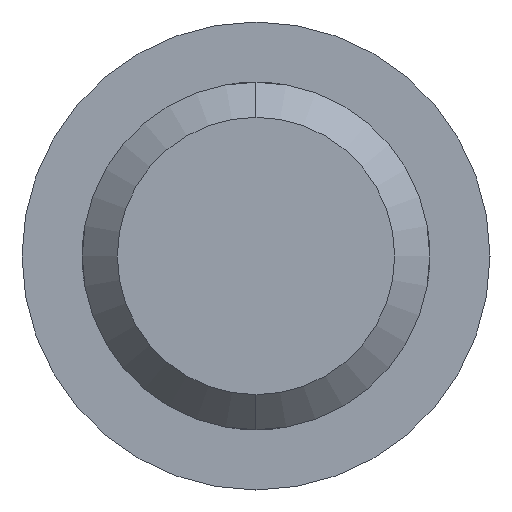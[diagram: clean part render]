
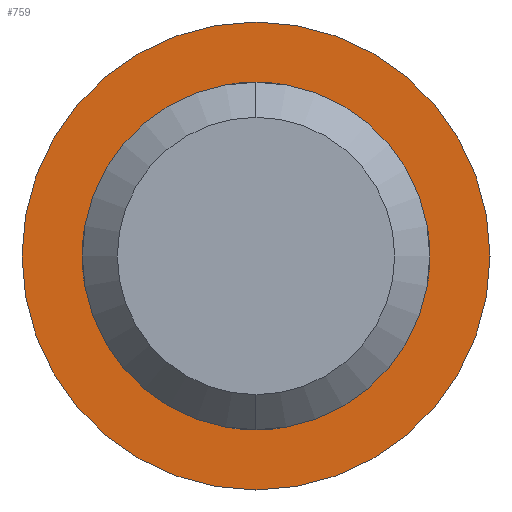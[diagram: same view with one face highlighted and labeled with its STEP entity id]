
A CAD part, left-side view. The second image highlights one B-rep face of the part: STEP entity #759.
In plain terms, the highlighted planar face has unit normal (-1, 0, 0).
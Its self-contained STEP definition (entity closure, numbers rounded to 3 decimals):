
#3 = AXIS2_PLACEMENT_3D ( 'NONE', #685, #340, #405 ) ;
#8 = DIRECTION ( 'NONE',  ( -1., 0., 0. ) ) ;
#17 = EDGE_CURVE ( 'NONE', #632, #635, #875, .T. ) ;
#19 = CARTESIAN_POINT ( 'NONE',  ( 0., 0., -20. ) ) ;
#58 = CARTESIAN_POINT ( 'NONE',  ( 0., 0., 20. ) ) ;
#61 = DIRECTION ( 'NONE',  ( -1., 0., 0. ) ) ;
#78 = FACE_BOUND ( 'NONE', #508, .T. ) ;
#128 = AXIS2_PLACEMENT_3D ( 'NONE', #336, #61, #265 ) ;
#133 = ORIENTED_EDGE ( 'NONE', *, *, #857, .T. ) ;
#140 = ORIENTED_EDGE ( 'NONE', *, *, #17, .F. ) ;
#145 = AXIS2_PLACEMENT_3D ( 'NONE', #784, #8, #453 ) ;
#265 = DIRECTION ( 'NONE',  ( 0., 0., 1. ) ) ;
#270 = PLANE ( 'NONE',  #3 ) ;
#299 = EDGE_LOOP ( 'NONE', ( #133, #872 ) ) ;
#319 = CARTESIAN_POINT ( 'NONE',  ( 0., 0., -14.85 ) ) ;
#336 = CARTESIAN_POINT ( 'NONE',  ( 0., 0., 0. ) ) ;
#340 = DIRECTION ( 'NONE',  ( 1., 0., 0. ) ) ;
#389 = CARTESIAN_POINT ( 'NONE',  ( 0., 0., 0. ) ) ;
#405 = DIRECTION ( 'NONE',  ( 0., 0., -1. ) ) ;
#416 = VERTEX_POINT ( 'NONE', #19 ) ;
#448 = CARTESIAN_POINT ( 'NONE',  ( 0., 0., 0. ) ) ;
#453 = DIRECTION ( 'NONE',  ( 0., 0., 1. ) ) ;
#463 = DIRECTION ( 'NONE',  ( -1., 0., 0. ) ) ;
#496 = AXIS2_PLACEMENT_3D ( 'NONE', #448, #802, #647 ) ;
#508 = EDGE_LOOP ( 'NONE', ( #140, #773 ) ) ;
#587 = FACE_OUTER_BOUND ( 'NONE', #299, .T. ) ;
#604 = CARTESIAN_POINT ( 'NONE',  ( 0., 0., 14.85 ) ) ;
#615 = EDGE_CURVE ( 'NONE', #416, #707, #884, .T. ) ;
#632 = VERTEX_POINT ( 'NONE', #604 ) ;
#635 = VERTEX_POINT ( 'NONE', #319 ) ;
#647 = DIRECTION ( 'NONE',  ( 0., 0., 1. ) ) ;
#685 = CARTESIAN_POINT ( 'NONE',  ( 0., 20., 0. ) ) ;
#688 = CIRCLE ( 'NONE', #128, 14.85 ) ;
#701 = AXIS2_PLACEMENT_3D ( 'NONE', #389, #463, #739 ) ;
#707 = VERTEX_POINT ( 'NONE', #58 ) ;
#726 = EDGE_CURVE ( 'NONE', #635, #632, #688, .T. ) ;
#739 = DIRECTION ( 'NONE',  ( 0., 0., 1. ) ) ;
#759 = ADVANCED_FACE ( 'NONE', ( #78, #587 ), #270, .F. ) ;
#773 = ORIENTED_EDGE ( 'NONE', *, *, #726, .F. ) ;
#775 = CIRCLE ( 'NONE', #145, 20. ) ;
#784 = CARTESIAN_POINT ( 'NONE',  ( 0., 0., 0. ) ) ;
#802 = DIRECTION ( 'NONE',  ( -1., 0., 0. ) ) ;
#857 = EDGE_CURVE ( 'NONE', #707, #416, #775, .T. ) ;
#872 = ORIENTED_EDGE ( 'NONE', *, *, #615, .T. ) ;
#875 = CIRCLE ( 'NONE', #496, 14.85 ) ;
#884 = CIRCLE ( 'NONE', #701, 20. ) ;
